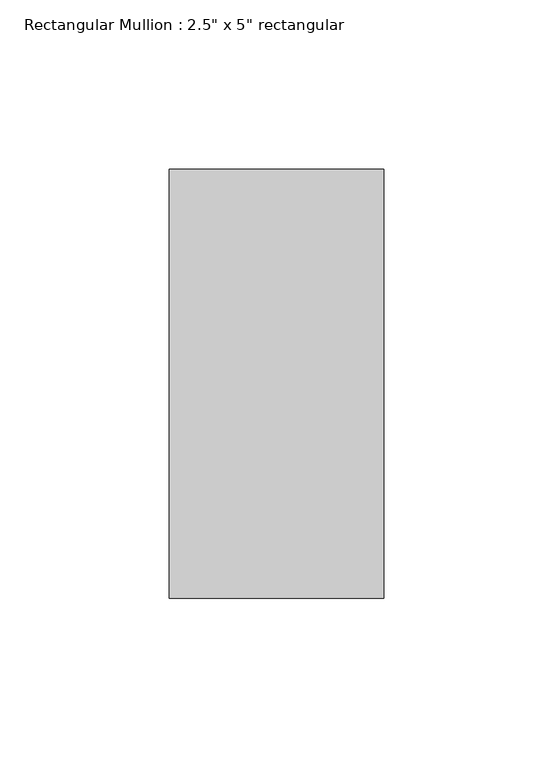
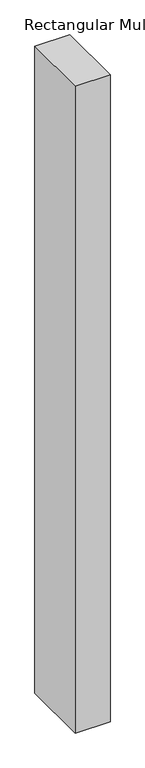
"""IFC4 building model written with IfcOpenShell, lengths in millimetres: member geometry."""

import ifcopenshell
import ifcopenshell.guid

model = None  # the IFC model being written
_history = None  # IfcOwnerHistory: only IFC2X3 demands one
_inside = {}  # id of a spatial element -> (the spatial element, [elements in it])
_under = {}  # id of a project, library or spatial element -> (it, [spatial elements below it])
_declared = {}  # id of a project -> (the project, [libraries it declares])
_typed = {}  # id of a type object -> (the type object, [elements of that type])
_made_of = {}  # id of a material, layer set ... -> (it, [elements and type objects made of it])


def new_model(schema):
    """Start an empty IFC model of exactly this schema.

    Asked for "IFC4X3", IfcOpenShell would pick the latest addendum, in which some entities
    have other attributes; the version numbers below select the first issue.
    IFC2X3 requires an IfcOwnerHistory on every rooted entity: one is made here for all.
    """
    global model, _history
    if schema == "IFC4X3":
        model = ifcopenshell.file(schema_version=(4, 3, 0, 0))
    else:
        model = ifcopenshell.file(schema=schema)
    _inside.clear()
    _under.clear()
    _declared.clear()
    _typed.clear()
    _made_of.clear()
    _history = None
    if model.schema == "IFC2X3":
        org = make("IfcOrganization", Name="unknown")
        user = make(
            "IfcPersonAndOrganization",
            ThePerson=make("IfcPerson", FamilyName="unknown"),
            TheOrganization=org,
        )
        app = make(
            "IfcApplication",
            ApplicationDeveloper=org,
            Version="unknown",
            ApplicationFullName="unknown",
            ApplicationIdentifier="unknown",
        )
        _history = make(
            "IfcOwnerHistory",
            OwningUser=user,
            OwningApplication=app,
            ChangeAction="ADDED",
            CreationDate=0,
        )
    return model


def make(cls, **values):
    """One entity of the class cls with the attributes given. An attribute that is None is left unset."""
    return model.create_entity(
        cls, **{name: value for name, value in values.items() if value is not None}
    )


def rooted(cls, **values):
    """An entity with a GlobalId (a new one), such as an element, a storey or a relation."""
    return make(cls, GlobalId=ifcopenshell.guid.new(), OwnerHistory=_history, **values)


def si_unit(unit_type, name, prefix=None):
    """IfcSIUnit, for example si_unit("LENGTHUNIT", "METRE", prefix="MILLI")."""
    return make("IfcSIUnit", UnitType=unit_type, Prefix=prefix, Name=name)


def assignment(units):
    """IfcUnitAssignment: the units of a project."""
    return None if units is None else make("IfcUnitAssignment", Units=units)


def point(xyz):
    """IfcCartesianPoint."""
    return None if xyz is None else make("IfcCartesianPoint", Coordinates=xyz)


def direction(xyz):
    """IfcDirection."""
    return None if xyz is None else make("IfcDirection", DirectionRatios=xyz)


def frame(location, z_axis=None, x_axis=None):
    """IfcAxis2Placement3D, a coordinate frame: its origin and axes. An axis left out is left unset."""
    return make(
        "IfcAxis2Placement3D",
        Location=point(location),
        Axis=direction(z_axis),
        RefDirection=direction(x_axis),
    )


def origin():
    """The frame at (0, 0, 0) with its axes left unset."""
    return frame((0.0, 0.0, 0.0))


def place(relative_to, where):
    """IfcLocalPlacement: puts the frame where relative to a parent placement (None: the world)."""
    return make(
        "IfcLocalPlacement", PlacementRelTo=relative_to, RelativePlacement=where
    )


def context(
    kind, dimensions, precision=None, world=None, true_north=None, identifier=None
):
    """IfcGeometricRepresentationContext, for example the 3D "Model" context."""
    return make(
        "IfcGeometricRepresentationContext",
        ContextIdentifier=identifier,
        ContextType=kind,
        CoordinateSpaceDimension=dimensions,
        Precision=precision,
        WorldCoordinateSystem=world,
        TrueNorth=true_north,
    )


def project(units=None, contexts=None):
    """IfcProject with its units and contexts."""
    return rooted(
        "IfcProject",
        Name="project",
        RepresentationContexts=contexts,
        UnitsInContext=assignment(units),
    )


def spatial(cls, under=None, at=None, **own):
    """A site, building, storey or space (cls), placed at a placement, below another one or the project."""
    s = rooted(cls, ObjectPlacement=at, **own)
    if under is not None:
        _under.setdefault(under.id(), (under, []))[1].append(s)
    return s


def polyline(points):
    """IfcPolyline through the points."""
    return make("IfcPolyline", Points=[point(p) for p in points])


def outline(outer, holes=None, kind="AREA"):
    """IfcArbitraryClosedProfileDef: a profile drawn as a closed curve; with holes, ...WithVoids."""
    if holes is None:
        return make("IfcArbitraryClosedProfileDef", ProfileType=kind, OuterCurve=outer)
    return make(
        "IfcArbitraryProfileDefWithVoids",
        ProfileType=kind,
        OuterCurve=outer,
        InnerCurves=holes,
    )


def extrude(swept, where, along, depth):
    """IfcExtrudedAreaSolid: the profile swept, set in the frame where, extruded along a direction by depth."""
    return make(
        "IfcExtrudedAreaSolid",
        SweptArea=swept,
        Position=where,
        ExtrudedDirection=direction(along),
        Depth=depth,
    )


def shape(context_of_items, identifier, shape_type, items):
    """IfcShapeRepresentation: the items that make up one representation, for example the "Body"."""
    return make(
        "IfcShapeRepresentation",
        ContextOfItems=context_of_items,
        RepresentationIdentifier=identifier,
        RepresentationType=shape_type,
        Items=items,
    )


def source(mapping_origin, context_of_items, identifier, shape_type, items):
    """IfcRepresentationMap: a shape defined once, which mapped items show again and again."""
    return make(
        "IfcRepresentationMap",
        MappingOrigin=mapping_origin,
        MappedRepresentation=shape(context_of_items, identifier, shape_type, items),
    )


def transform(
    local_origin,
    x_axis=None,
    y_axis=None,
    z_axis=None,
    scale=None,
    scale2=None,
    scale3=None,
    uniform=True,
):
    """IfcCartesianTransformationOperator3D, or its non-uniform kind. x_axis, y_axis, z_axis: its Axis1, 2, 3."""
    if uniform:
        return make(
            "IfcCartesianTransformationOperator3D",
            Axis1=direction(x_axis),
            Axis2=direction(y_axis),
            LocalOrigin=point(local_origin),
            Scale=scale,
            Axis3=direction(z_axis),
        )
    return make(
        "IfcCartesianTransformationOperator3DnonUniform",
        Axis1=direction(x_axis),
        Axis2=direction(y_axis),
        LocalOrigin=point(local_origin),
        Scale=scale,
        Axis3=direction(z_axis),
        Scale2=scale2,
        Scale3=scale3,
    )


def mapped(mapping_source, mapping_target):
    """IfcMappedItem: shows the shape of a source again, moved by a transform."""
    return make(
        "IfcMappedItem", MappingSource=mapping_source, MappingTarget=mapping_target
    )


def made_of(thing, what):
    """Note that an element or type object is made of a material, layer set ...; save() writes the relation."""
    if what is not None:
        _made_of.setdefault(what.id(), (what, []))[1].append(thing)
    return thing


def element(
    cls,
    number,
    at=None,
    inside=None,
    cuts=None,
    type_object=None,
    material=None,
    context=None,
    identifier="Body",
    shape_type=None,
    held_by="IfcProductDefinitionShape",
    body=None,
    shapes=None,
    **own,
):
    """One element of the class cls, such as IfcWall. Its Tag is "e" and its number.

    at: its placement. inside: the storey or other place that contains it. cuts: it is an
    opening in that element (IfcRelVoidsElement). A single representation is given by context,
    identifier, shape_type and body (its items); several are given by shapes. held_by: the class
    of the entity that holds the representations. save() writes the other relations.
    """
    e = rooted(cls, Tag="e%d" % number, ObjectPlacement=at, **own)
    if body is not None:
        shapes = [shape(context, identifier, shape_type, body)]
    if shapes is not None:
        e.Representation = make(held_by, Representations=shapes)
    if inside is not None:
        _inside.setdefault(inside.id(), (inside, []))[1].append(e)
    if cuts is not None:
        rooted(
            "IfcRelVoidsElement", RelatingBuildingElement=cuts, RelatedOpeningElement=e
        )
    if type_object is not None:
        _typed.setdefault(type_object.id(), (type_object, []))[1].append(e)
    return made_of(e, material)


def aggregate(whole, parts):
    """IfcRelAggregates: a whole, such as a stair, and the parts it consists of."""
    return rooted("IfcRelAggregates", RelatingObject=whole, RelatedObjects=parts)


def save(model, path):
    """Write the relations noted so far, then the file.

    IfcRelAggregates (storeys below a building ...), IfcRelContainedInSpatialStructure (elements
    in a storey), IfcRelDefinesByType, IfcRelAssociatesMaterial and IfcRelDeclares: one each for
    every whole, place, type object, material and project.
    """
    for whole, parts in _under.values():
        aggregate(whole, parts)
    for where, things in _inside.values():
        rooted(
            "IfcRelContainedInSpatialStructure",
            RelatedElements=things,
            RelatingStructure=where,
        )
    for kind, things in _typed.values():
        rooted("IfcRelDefinesByType", RelatedObjects=things, RelatingType=kind)
    for what, things in _made_of.values():
        rooted("IfcRelAssociatesMaterial", RelatedObjects=things, RelatingMaterial=what)
    for by, libraries in _declared.values():
        rooted("IfcRelDeclares", RelatingContext=by, RelatedDefinitions=libraries)
    model.write(path)


def member_59c53a79(model_context):
    return source(origin(), model_context, "Body", "SweptSolid", [
        extrude(outline(polyline([(0.0, 63.5), (0.0, -63.5), (-63.5, -63.5), (-63.5, 63.5), (0.0, 63.5)])), frame((0.0, 0.0, -1245.39375), z_axis=(0.0, 0.0, 1.0), x_axis=(1.0, 0.0, 0.0)), (0.0, 0.0, 1.0), 1245.39375),
    ])


if __name__ == "__main__":
    model = new_model("IFC4")
    model_context = context("Model", 3, world=origin())
    ifc_project = project(units=[si_unit("LENGTHUNIT", "METRE", prefix="MILLI")], contexts=[model_context])
    site = spatial("IfcSite", under=ifc_project)
    building = spatial("IfcBuilding", under=site)
    placement = place(None, origin())
    member_shape = member_59c53a79(model_context)
    element("IfcMember", 1, ObjectType="Rectangular Mullion : 2.5\" x 5\" rectangular", at=placement, inside=building, context=model_context, shape_type="MappedRepresentation", body=[
        mapped(member_shape, transform((0.0, 0.0, 0.0), x_axis=(1.0, 0.0, 0.0), y_axis=(0.0, 1.0, 0.0), z_axis=(0.0, 0.0, 1.0))),
    ])
    save(model, "model.ifc")
